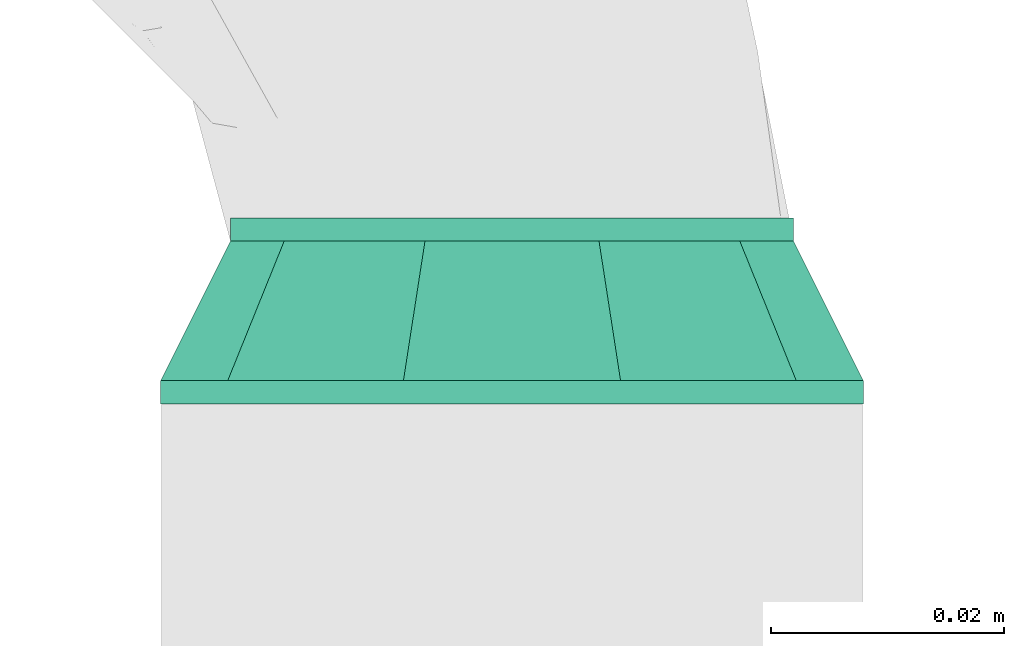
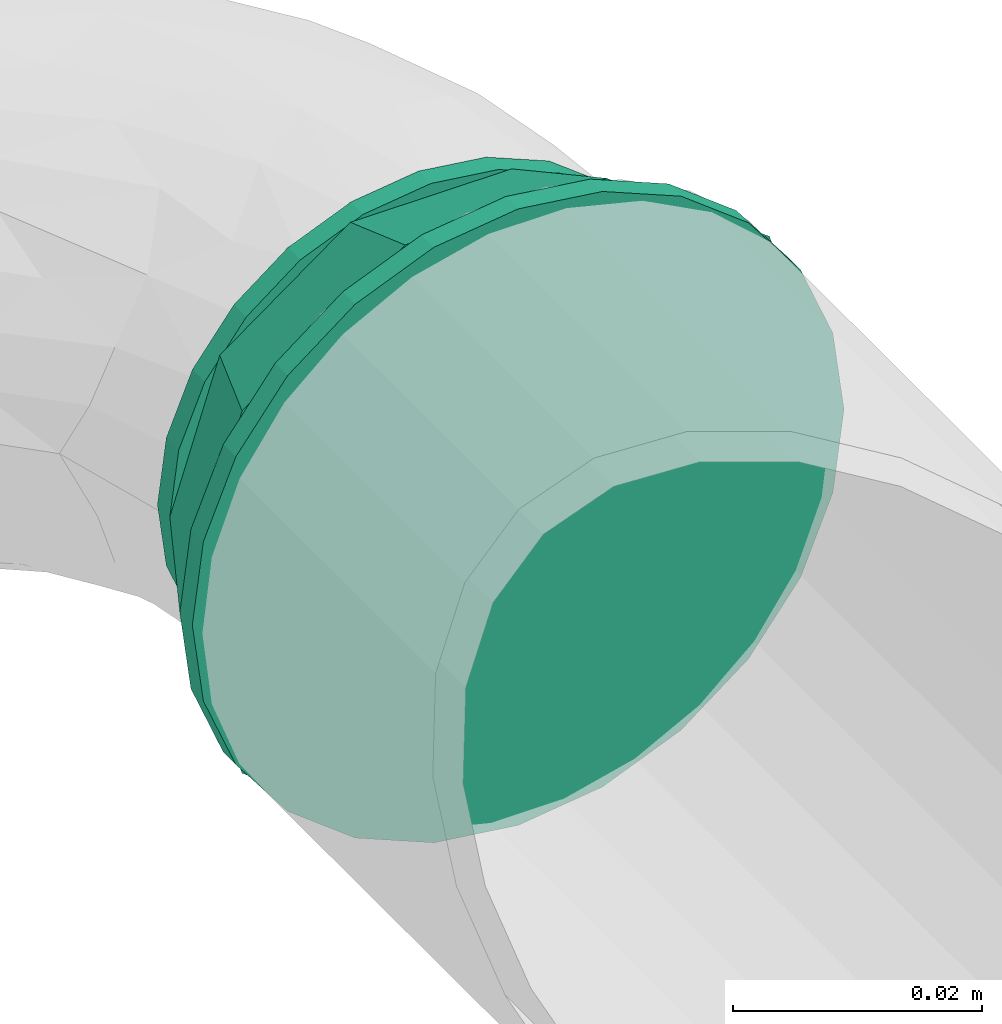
# One storey, part 16 of 17: 1 flow fitting.
"""IFC2X3 building model written with IfcOpenShell, lengths in millimetres."""

from ifc_helpers import new_model, entity, si_unit, converted_unit, derived_unit, direction, frame, origin_with_axes, place, context, subcontext, project, spatial, open_shell, surface_model, source, transform, mapped, type_object, element, save


model = new_model("IFC2X3")

# Units and contexts
model_context = context("Model", 3, precision=0.01, world=frame((0.0, 4.29681676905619e-09, 0.0)), true_north=direction((4.01073788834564e-13, 1.0)))
plan_context = context("Plan", 3, precision=0.01, world=frame((0.0, 4.29681676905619e-09, 0.0)), true_north=direction((4.01073788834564e-13, 1.0)))
body_context = subcontext(model_context, "Body", "Model", "MODEL_VIEW")
ifc_project = project(units=[converted_unit("PLANEANGLEUNIT", "DEGREE", entity("IfcPositiveLengthMeasure", 0.0174532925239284), si_unit("PLANEANGLEUNIT", "RADIAN"), dimensions=[0, 0, 0, 0, 0, 0, 0]), si_unit("AREAUNIT", "SQUARE_METRE"), si_unit("LENGTHUNIT", "METRE", prefix="MILLI"), si_unit("MASSUNIT", "GRAM", prefix="KILO"), si_unit("POWERUNIT", "WATT"), si_unit("PRESSUREUNIT", "PASCAL"), si_unit("FORCEUNIT", "NEWTON", prefix="KILO"), si_unit("ELECTRICVOLTAGEUNIT", "VOLT"), si_unit("ELECTRICCURRENTUNIT", "AMPERE"), si_unit("THERMODYNAMICTEMPERATUREUNIT", "DEGREE_CELSIUS"), si_unit("TIMEUNIT", "SECOND"), si_unit("VOLUMEUNIT", "CUBIC_METRE"), derived_unit("LINEARVELOCITYUNIT", [(si_unit("LENGTHUNIT", "METRE"), 1), (si_unit("TIMEUNIT", "SECOND"), -1)]), derived_unit("VOLUMETRICFLOWRATEUNIT", [(si_unit("VOLUMEUNIT", "CUBIC_METRE"), 1), (si_unit("TIMEUNIT", "SECOND"), -1)]), derived_unit("THERMALTRANSMITTANCEUNIT", [(si_unit("POWERUNIT", "WATT"), 1), (si_unit("THERMODYNAMICTEMPERATUREUNIT", "KELVIN"), -1), (si_unit("AREAUNIT", "SQUARE_METRE"), -1)]), derived_unit("SOUNDPRESSUREUNIT", [(si_unit("PRESSUREUNIT", "PASCAL"), 1)])], contexts=[model_context, plan_context])

# Site, building, storey
site_placement = place(None, frame((0.0, -4.29681676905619e-09, 0.0), z_axis=(0.0, 0.0, 1.0), x_axis=(1.0, 0.0, 0.0)))
site = spatial("IfcSite", under=ifc_project, at=site_placement, Name="ENGM", CompositionType="ELEMENT")
building_placement = place(site_placement, frame((0.0, 4.29681676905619e-09, 0.0), z_axis=(0.0, 0.0, 1.0), x_axis=(1.0, 0.0, 0.0)))
building = spatial("IfcBuilding", under=site, at=building_placement, Name="TH", CompositionType="ELEMENT")
storey_placement = place(building_placement, frame((0.0, 0.0, 205200.0), z_axis=(0.0, 0.0, 1.0), x_axis=(1.0, 0.0, 0.0)))
storey = spatial("IfcBuildingStorey", under=building, at=storey_placement, Name="Nivå D + 1,2 m", CompositionType="ELEMENT", Elevation=205200.0)

# Flow fitting
pipe_fitting_type = type_object("IfcPipeFittingType", Name="magi_pipe_fe_reducer_centric_short_NOR", PredefinedType="TRANSITION")
shared_shape = source(origin_with_axes(), body_context, "Body", "SurfaceModel", [
    surface_model("IfcShellBasedSurfaceModel", [(14.0, 12.1, -20.95781), (14.0, -24.2, 0.0), (14.0, 6.26342, -23.37541), (14.0, 23.37541, -6.26342), (14.0, 17.11198, -17.11198), (14.0, 20.95781, -12.1), (14.0, -17.11198, -17.11198), (14.0, -6.26342, -23.37541), (14.0, -12.1, -20.95781), (14.0, 0.0, -24.2), (14.0, -23.37541, -6.26342), (14.0, -20.95781, -12.1), (14.0, 24.2, 0.0), (14.0, 23.37541, 6.26342), (14.0, 20.95781, 12.1), (14.0, 17.11198, 17.11198), (14.0, 12.1, 20.95781), (14.0, 6.26342, 23.37541), (14.0, 0.0, 24.2), (14.0, -23.37541, 6.26342), (14.0, -17.11198, 17.11198), (14.0, -20.95781, 12.1), (14.0, -6.26342, 23.37541), (14.0, -12.1, 20.95781), (12.0, 0.0, 24.2), (12.0, 6.26342, 23.37541), (12.0, 12.1, 20.95781), (12.0, 17.11198, 17.11198), (12.0, 20.95781, 12.1), (12.0, 23.37541, 6.26342), (12.0, -23.37541, 6.26342), (12.0, -17.11198, -17.11198), (12.0, -6.26342, 23.37541), (12.0, -17.11198, 17.11198), (12.0, -12.1, 20.95781), (12.0, -20.95781, 12.1), (12.0, -24.2, 0.0), (12.0, 24.2, 0.0), (12.0, 17.11198, -17.11198), (12.0, 23.37541, -6.26342), (12.0, 20.95781, -12.1), (12.0, 12.1, -20.95781), (12.0, 6.26342, -23.37541), (12.0, -23.37541, -6.26342), (12.0, -20.95781, -12.1), (12.0, -6.26342, -23.37541), (12.0, -12.1, -20.95781), (12.0, 0.0, -24.2), (-2.0, 0.0, 30.2), (-2.0, 7.81634, 29.17096), (-2.0, 15.1, 26.15397), (-2.0, 21.35462, 21.35462), (-2.0, 26.15397, 15.1), (-2.0, 29.17096, 7.81634), (-2.0, -29.17096, 7.81634), (-2.0, 30.2, 0.0), (-2.0, -7.81634, 29.17096), (-2.0, -21.35462, 21.35462), (-2.0, -15.1, 26.15397), (-2.0, -26.15397, 15.1), (-2.0, -30.2, 0.0), (-2.0, 29.17096, -7.81634), (-2.0, 26.15397, -15.1), (-2.0, 21.35462, -21.35462), (-2.0, 15.1, -26.15397), (-2.0, 7.81634, -29.17096), (-2.0, -15.1, -26.15397), (-2.0, -29.17096, -7.81634), (-2.0, -21.35462, -21.35462), (-2.0, -26.15397, -15.1), (-2.0, 0.0, -30.2), (-2.0, -7.81634, -29.17096), (0.0, 7.81634, -29.17096), (0.0, 15.1, -26.15397), (0.0, 21.35462, -21.35462), (0.0, 30.2, 0.0), (0.0, 26.15397, -15.1), (0.0, 29.17096, -7.81634), (0.0, -15.1, -26.15397), (0.0, -29.17096, 7.81634), (0.0, 0.0, -30.2), (0.0, -7.81634, -29.17096), (0.0, -21.35462, -21.35462), (0.0, -29.17096, -7.81634), (0.0, -26.15397, -15.1), (0.0, 29.17096, 7.81634), (0.0, 26.15397, 15.1), (0.0, 21.35462, 21.35462), (0.0, -21.35462, 21.35462), (0.0, 15.1, 26.15397), (0.0, 7.81634, 29.17096), (0.0, 0.0, 30.2), (0.0, -26.15397, 15.1), (0.0, -30.2, 0.0), (0.0, -7.81634, 29.17096), (0.0, -15.1, 26.15397), (12.0, -7.47821, 23.01557), (12.0, -19.57821, 14.2244), (12.0, 19.57821, 14.2244), (12.0, 7.47821, 23.01557), (12.0, -7.47821, -23.01557), (12.0, -19.57821, -14.2244), (12.0, 7.47821, -23.01557), (12.0, 19.57821, -14.2244), (0.0, 9.33231, 28.72191), (0.0, 24.43231, 17.75111), (0.0, -9.33231, 28.72191), (0.0, -24.43231, 17.75111), (0.0, 9.33231, -28.72191), (0.0, 24.43231, -17.75111), (0.0, -9.33231, -28.72191), (0.0, -24.43231, -17.75111), (12.0, 13.52821, -18.61999), (0.0, 16.88231, -23.23651), (0.0, 27.31616, -8.87556), (12.0, 21.8891, -7.1122), (0.0, -27.48172, -8.36602), (12.0, 0.0, -23.01557), (0.0, 0.0, -28.72191), (12.0, -21.8891, -7.1122), (0.0, -16.88231, -23.23651), (12.0, -13.52821, -18.61999), (12.0, -13.52821, 18.61999), (0.0, -16.88231, 23.23651), (0.0, -27.31616, 8.87556), (12.0, -21.8891, 7.1122), (0.0, 27.48172, 8.36602), (12.0, 0.0, 23.01557), (0.0, 0.0, 28.72191), (12.0, 21.8891, 7.1122), (0.0, 16.88231, 23.23651), (12.0, 13.52821, 18.61999)], [open_shell([[[0, 1, 2]], [[3, 0, 4]], [[0, 3, 1]], [[3, 4, 5]], [[1, 6, 2]], [[7, 6, 8]], [[7, 9, 2]], [[6, 10, 11]], [[7, 2, 6]], [[6, 1, 10]], [[12, 1, 3]], [[13, 14, 15]], [[12, 15, 1]], [[16, 17, 18]], [[16, 18, 15]], [[1, 15, 18]], [[19, 20, 21]], [[22, 19, 1]], [[20, 22, 23]], [[22, 20, 19]], [[1, 18, 22]], [[15, 12, 13]], [[24, 25, 26]], [[24, 26, 27]], [[27, 28, 29]], [[24, 27, 30]], [[27, 31, 30]], [[32, 33, 34]], [[32, 24, 33]], [[33, 30, 35]], [[24, 30, 33]], [[30, 31, 36]], [[27, 29, 37]], [[38, 37, 39]], [[38, 39, 40]], [[41, 42, 37]], [[41, 37, 38]], [[42, 31, 27]], [[43, 31, 44]], [[36, 31, 43]], [[31, 45, 46]], [[31, 42, 45]], [[47, 45, 42]], [[27, 37, 42]], [[43, 10, 36]], [[44, 11, 43]], [[8, 31, 46]], [[44, 31, 6]], [[7, 46, 45]], [[43, 11, 10]], [[10, 1, 36]], [[7, 8, 46]], [[6, 31, 8]], [[6, 11, 44]], [[9, 7, 45]], [[45, 47, 9]], [[42, 2, 47]], [[41, 0, 42]], [[5, 38, 40]], [[41, 38, 4]], [[3, 40, 39]], [[41, 4, 0]], [[0, 2, 42]], [[12, 3, 39]], [[5, 40, 3]], [[5, 4, 38]], [[37, 12, 39]], [[47, 2, 9]], [[29, 13, 37]], [[28, 14, 29]], [[16, 27, 26]], [[28, 27, 15]], [[17, 26, 25]], [[29, 14, 13]], [[13, 12, 37]], [[17, 16, 26]], [[15, 27, 16]], [[15, 14, 28]], [[18, 17, 25]], [[25, 24, 18]], [[32, 22, 24]], [[34, 23, 32]], [[21, 33, 35]], [[34, 33, 20]], [[19, 35, 30]], [[34, 20, 23]], [[23, 22, 32]], [[1, 19, 30]], [[21, 35, 19]], [[21, 20, 33]], [[36, 1, 30]], [[24, 22, 18]], [[48, 49, 50]], [[48, 50, 51]], [[51, 52, 53]], [[48, 51, 54]], [[55, 54, 51]], [[56, 57, 58]], [[56, 48, 57]], [[57, 54, 59]], [[48, 54, 57]], [[54, 55, 60]], [[55, 51, 53]], [[55, 61, 62]], [[55, 62, 63]], [[63, 64, 65]], [[63, 65, 55]], [[65, 66, 60]], [[67, 68, 69]], [[68, 67, 66]], [[66, 70, 71]], [[67, 60, 66]], [[65, 70, 66]], [[60, 55, 65]], [[72, 73, 74]], [[72, 74, 75]], [[76, 77, 75]], [[76, 75, 74]], [[78, 72, 79]], [[80, 78, 81]], [[80, 72, 78]], [[82, 83, 84]], [[83, 82, 78]], [[78, 79, 83]], [[79, 72, 75]], [[85, 86, 87]], [[75, 87, 88]], [[89, 90, 91]], [[88, 87, 89]], [[88, 89, 91]], [[79, 88, 92]], [[93, 83, 79]], [[88, 94, 95]], [[79, 75, 88]], [[94, 88, 91]], [[85, 87, 75]], [[67, 83, 60]], [[69, 84, 67]], [[78, 68, 66]], [[69, 68, 82]], [[81, 66, 71]], [[67, 84, 83]], [[83, 93, 60]], [[81, 78, 66]], [[82, 68, 78]], [[82, 84, 69]], [[80, 81, 71]], [[71, 70, 80]], [[65, 72, 70]], [[64, 73, 65]], [[76, 63, 62]], [[64, 63, 74]], [[77, 62, 61]], [[64, 74, 73]], [[73, 72, 65]], [[75, 77, 61]], [[76, 62, 77]], [[76, 74, 63]], [[55, 75, 61]], [[70, 72, 80]], [[53, 85, 55]], [[52, 86, 53]], [[89, 51, 50]], [[52, 51, 87]], [[90, 50, 49]], [[53, 86, 85]], [[85, 75, 55]], [[90, 89, 50]], [[87, 51, 89]], [[87, 86, 52]], [[91, 90, 49]], [[49, 48, 91]], [[56, 94, 48]], [[58, 95, 56]], [[92, 57, 59]], [[58, 57, 88]], [[79, 59, 54]], [[58, 88, 95]], [[95, 94, 56]], [[93, 79, 54]], [[92, 59, 79]], [[92, 88, 57]], [[60, 93, 54]], [[48, 94, 91]], [[96, 97, 98]], [[96, 98, 99]], [[98, 97, 37]], [[97, 100, 37]], [[101, 100, 97]], [[102, 103, 37]], [[37, 100, 102]], [[36, 101, 97]], [[104, 105, 93]], [[106, 93, 107]], [[93, 106, 104]], [[105, 108, 93]], [[108, 105, 109]], [[93, 110, 111]], [[93, 108, 110]], [[109, 105, 75]], [[109, 103, 112]], [[102, 113, 112]], [[113, 102, 108]], [[114, 115, 103]], [[37, 115, 75]], [[113, 109, 112]], [[36, 93, 116]], [[108, 117, 118]], [[118, 117, 100]], [[100, 110, 118]], [[103, 109, 114]], [[75, 115, 114]], [[116, 119, 36]], [[120, 121, 101]], [[100, 121, 110]], [[111, 101, 119]], [[110, 121, 120]], [[101, 111, 120]], [[102, 117, 108]], [[111, 119, 116]], [[107, 97, 122]], [[96, 123, 122]], [[123, 96, 106]], [[124, 125, 97]], [[36, 125, 93]], [[123, 107, 122]], [[37, 75, 126]], [[106, 127, 128]], [[128, 127, 99]], [[99, 104, 128]], [[97, 107, 124]], [[93, 125, 124]], [[126, 129, 37]], [[130, 131, 98]], [[99, 131, 104]], [[105, 98, 129]], [[104, 131, 130]], [[98, 105, 130]], [[96, 127, 106]], [[105, 129, 126]]])]),
])
flow_fitting_placement = place(storey_placement, frame((895782.28739, 479442.22186, 4417.71893), z_axis=(0.0, 0.0, 1.0), x_axis=(0.0, 1.0, 0.0)))
element("IfcFlowFitting", 1, at=flow_fitting_placement, inside=storey, type_object=pipe_fitting_type, Name="magi_pipe_fe_reducer_centric_short_NOR", context=body_context, shape_type="MappedRepresentation", body=[
    mapped(shared_shape, transform((0.0, 0.0, 0.0), scale=1.0)),
])

save(model, "model.ifc")
